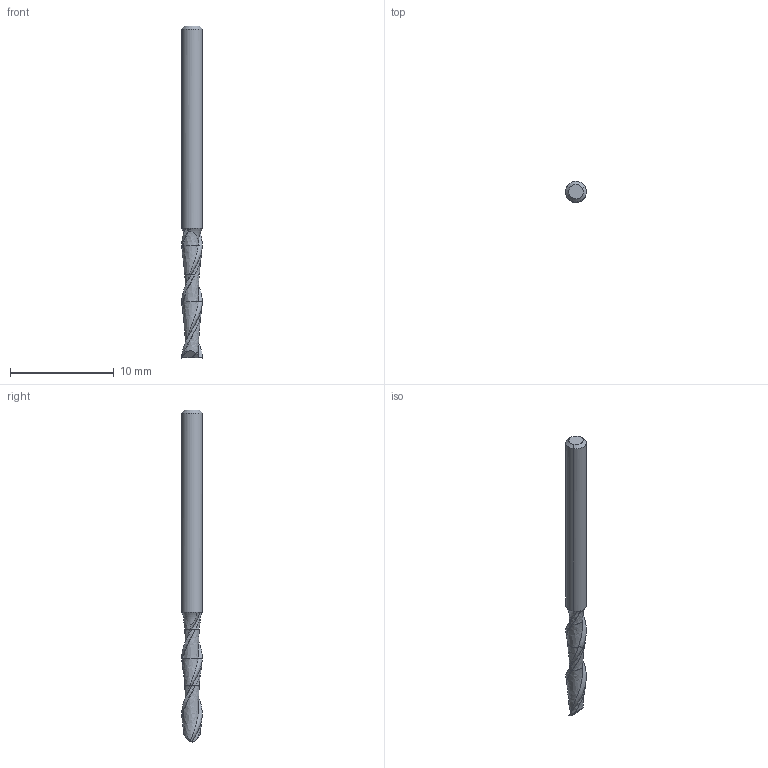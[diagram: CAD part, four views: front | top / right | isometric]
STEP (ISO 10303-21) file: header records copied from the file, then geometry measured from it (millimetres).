
FILE_DESCRIPTION(('CATIA V5 STEP','CAx-IF Rec.Pracs.--- Model Styling and Organization---1.2---2011-12-15'),'2;1');
FILE_NAME('I:\isr\design\admin8\users\weaam_s\5651088D.stp','2018-07-01T08:54:01+00:00',('none'),('none'),'CATIA Version 5 Release 21 SP 5 (IN-10)','CATIA V5 STEP AP214','none');
FILE_SCHEMA(('AUTOMOTIVE_DESIGN { 1 0 10303 214 1 1 1 1 }'));
Length unit declared in the file: millimetre
Products named in the file (1): EC-A2 02-08C02E32
Bounding box: 2 x 2 x 32 mm (x, y, z)
Volume: 83.1 mm3; surface area: 197.9 mm2
Topology: 2 solids, 2 shells, 65 faces, 163 edges, 102 vertices
Faces by surface type: bspline 34, plane 19, cone 6, torus 4, cylinder 2
Entity records: 3206 total; most frequent: CARTESIAN_POINT 1944, ORIENTED_EDGE 316, EDGE_CURVE 158, DIRECTION 104, VERTEX_POINT 97, B_SPLINE_CURVE_WITH_KNOTS 83, ADVANCED_FACE 65, OVER_RIDING_STYLED_ITEM 65
